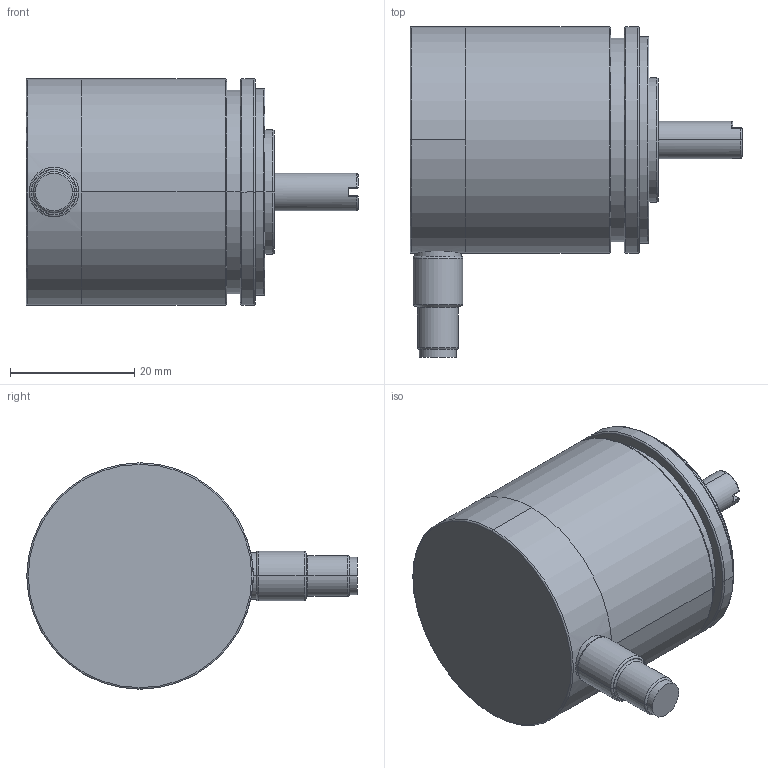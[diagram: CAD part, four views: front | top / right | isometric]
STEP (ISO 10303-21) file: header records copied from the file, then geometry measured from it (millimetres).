
FILE_DESCRIPTION (( 'STEP AP214' ), '1' );
FILE_NAME ('MAB36_radial.STEP', '2011-09-26T08:11:32', ( 'Mega' ), ( '' ), 'SwSTEP 2.0', 'SolidWorks 2007', '' );
FILE_SCHEMA (( 'AUTOMOTIVE_DESIGN' ));
Length unit declared in the file: millimetre
Products named in the file (1): MAB36_radial
Bounding box: 53.5 x 53.25 x 36.5 mm (x, y, z)
Surface area: 9025.3 mm2 (no closed solid volume)
Topology: 0 solids, 7 shells, 120 faces, 272 edges, 161 vertices
Faces by surface type: cylinder 48, torus 37, plane 21, cone 8, sphere 4, bspline 2
Entity records: 4824 total; most frequent: CARTESIAN_POINT 728, DIRECTION 676, ORIENTED_EDGE 500, AXIS2_PLACEMENT_3D 303, EDGE_CURVE 266, CIRCLE 184, VERTEX_POINT 161, EDGE_LOOP 137
